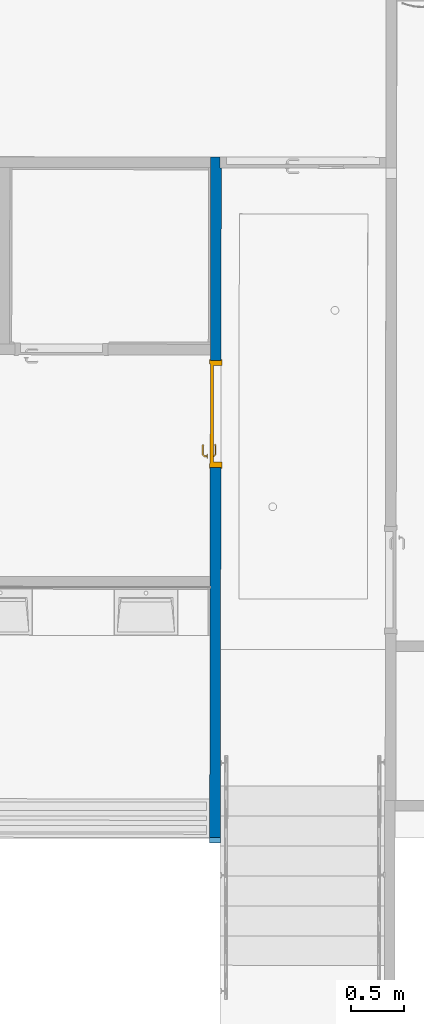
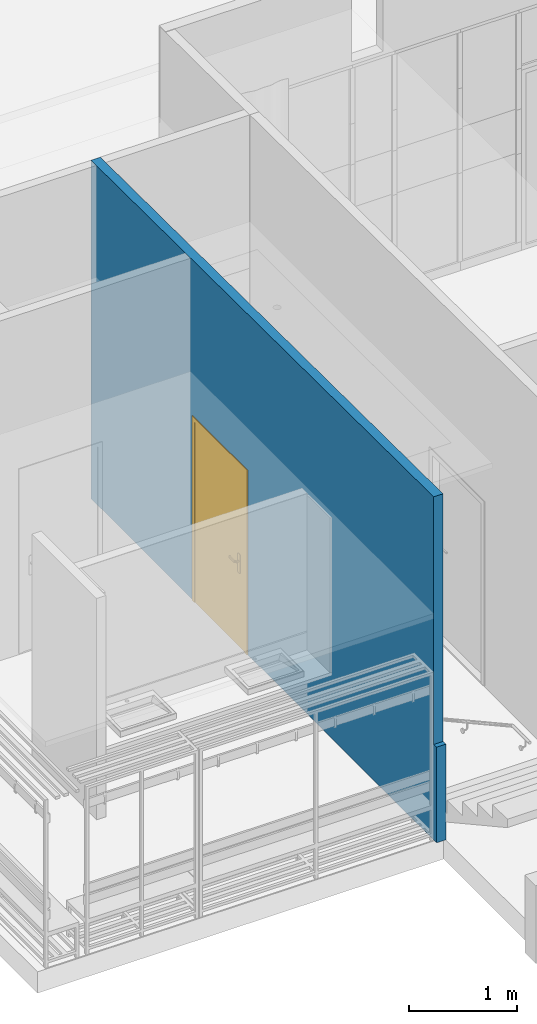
# One storey, part 18 of 43: 1 door, 1 wall, 1 opening.
"""IFC2X3 building model written with IfcOpenShell, lengths in metres."""

from ifc_helpers import new_model, entity, si_unit, converted_unit, derived_unit, direction, frame, frame_2d, origin, place, context, subcontext, project, spatial, rectangle, extrude, faceted_brep, source, transform, mapped, material, material_list, layer, layer_set, type_object, type_shapes, element, fill, save


model = new_model("IFC2X3")

# Units and contexts
model_context = context("Model", 3, precision=1e-05, world=origin(), true_north=direction((6.123233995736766e-17, 1.0)))
body_context = subcontext(model_context, "Body", "Model", "MODEL_VIEW")
ifc_project = project(units=[si_unit("LENGTHUNIT", "METRE"), si_unit("AREAUNIT", "SQUARE_METRE"), converted_unit("PLANEANGLEUNIT", "DEGREE", entity("IfcPlaneAngleMeasure", 0.017453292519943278), si_unit("PLANEANGLEUNIT", "RADIAN"), dimensions=[0, 0, 0, 0, 0, 0, 0]), derived_unit("THERMALTRANSMITTANCEUNIT", [(si_unit("MASSUNIT", "GRAM", prefix="KILO"), 1), (si_unit("THERMODYNAMICTEMPERATUREUNIT", "KELVIN"), -1), (si_unit("TIMEUNIT", "SECOND"), -3)])], contexts=[model_context])

# Site, building, storey
site_placement = place(None, frame((1253.6752467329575, 2072.143113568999, 91.49999999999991), z_axis=(0.0, 0.0, 1.0), x_axis=(0.7237211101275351, 0.6900925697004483, 0.0)))
site = spatial("IfcSite", under=ifc_project, at=site_placement, Name="Surface", CompositionType="ELEMENT")
building_placement = place(site_placement, origin())
building = spatial("IfcBuilding", under=site, at=building_placement, CompositionType="ELEMENT")
storey_placement = place(building_placement, frame((0.0, 0.0, -4.629999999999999)))
storey = spatial("IfcBuildingStorey", under=building, at=storey_placement, Name="rez de rue -1.10m", CompositionType="ELEMENT", Elevation=-4.629999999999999)

# Wall, opening, door
ifc_material_1 = material(Name="OMD_Cloison 100mm CF1h")
ifc_layer = layer(ifc_material_1, 0.1)
ifc_layer_set = layer_set([ifc_layer], Name="Mur de base:Cloison 100mm CF1h")
wall_type = type_object("IfcWallType", Name="Mur de base:Cloison 100mm CF1h", PredefinedType="STANDARD", material=ifc_layer_set)
wall_placement = place(storey_placement, frame((163.069116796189, -1.9004935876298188, 0.0), z_axis=(0.0, 0.0, 1.0), x_axis=(0.6911544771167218, 0.7227070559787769, 0.0)))
wall = element("IfcWall", 1, at=wall_placement, inside=storey, type_object=wall_type, Name="Mur de base:Cloison 100mm CF1h", ObjectType="Mur de base:Cloison 100mm CF1h", context=body_context, shape_type="Brep", body=[
    faceted_brep([(4.509532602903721, -0.049999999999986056, 2.0749999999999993), (4.509532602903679, -0.049999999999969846, 0.0), (6.3090216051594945, -0.04999999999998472, 0.0), (6.409021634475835, -0.04999999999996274, 0.0), (6.409021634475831, -0.049999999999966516, 0.004999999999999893), (6.309021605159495, -0.04999999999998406, 0.004999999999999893), (6.309021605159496, -0.04999999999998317, 2.09), (6.409021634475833, -0.049999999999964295, 2.09), (6.409021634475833, -0.04999999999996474, 3.820748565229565), (6.309021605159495, -0.04999999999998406, 3.821638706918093), (0.05000000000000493, -0.04999999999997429, 3.8773528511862), (0.050000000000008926, -0.04999999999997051, 1.0799999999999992), (0.0, -0.04999999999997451, 1.0799999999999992), (0.0, -0.04999999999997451, 0.0), (3.509532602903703, -0.04999999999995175, 0.0), (3.509532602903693, -0.049999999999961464, 2.0749999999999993), (4.5095326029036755, 0.050000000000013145, 0.0), (4.509532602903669, 0.05000000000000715, 2.0749999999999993), (3.5095326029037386, 0.049999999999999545, 2.0749999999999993), (3.5095326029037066, 0.0500000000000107, 0.0), (0.0, 0.0500000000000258, 0.0), (0.0, 0.0500000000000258, 1.0799999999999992), (0.04999999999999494, 0.05000000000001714, 1.0799999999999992), (0.05000000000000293, 0.05000000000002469, 3.8773528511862), (4.559532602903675, 0.05000000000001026, 3.83721163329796), (4.659532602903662, 0.050000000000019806, 3.8363214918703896), (6.309445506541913, 0.05000000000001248, 3.8216349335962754), (6.408945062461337, 0.05000000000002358, 3.8207492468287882), (6.408945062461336, 0.05000000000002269, 0.0), (6.409011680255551, -0.037000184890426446, 2.09), (6.409011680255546, -0.03700018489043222, 0.004999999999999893), (6.309011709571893, -0.037076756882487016, 0.004999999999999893), (6.309011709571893, -0.037076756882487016, 2.09)], [[[0, 1, 2, 3, 4, 5, 6, 7, 8, 9, 10, 11, 12, 13, 14, 15]], [[16, 17, 18, 19, 20, 21, 22, 23, 24, 25, 26, 27, 28]], [[13, 20, 19, 14]], [[0, 17, 16, 1]], [[17, 0, 15, 18]], [[18, 15, 14, 19]], [[3, 28, 27, 8, 7, 29, 30, 4]], [[8, 27, 26, 25, 24, 23, 10, 9]], [[20, 13, 12, 21]], [[22, 21, 12, 11]], [[11, 10, 23, 22]], [[31, 32, 6, 5]], [[32, 31, 30, 29]], [[32, 29, 7, 6]], [[30, 31, 5, 4]], [[1, 16, 28, 3, 2]]]),
])
opening_placement = place(wall_placement, frame((3.5095326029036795, -0.05000000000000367, 0.0)))
opening = element("IfcOpeningElement", 2, at=opening_placement, cuts=wall, Name="Grz_porte 1V recouvrement 30°:93x204:1", ObjectType="Opening", context=body_context, shape_type="SweptSolid", body=[
    extrude(rectangle(XDim=2.0749999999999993, YDim=0.999999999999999, at=frame_2d((1.0374999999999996, 0.4999999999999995), x_axis=(1.0, 0.0))), frame((0.0, 0.0, 0.0), z_axis=(0.0, 1.0, 0.0), x_axis=(0.0, 0.0, 1.0)), (0.0, 0.0, 1.0), 0.09999999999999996),
])
ifc_material_2 = material(Name="Porte - Poignée")
ifc_material_3 = material(Name="OMD_RAL1032")
ifc_material_list = material_list([ifc_material_2, ifc_material_3])
door_style = type_object("IfcDoorStyle", Name="Grz_porte 1V recouvrement 30°:93x204", ConstructionType="NOTDEFINED", OperationType="SINGLE_SWING_LEFT", ParameterTakesPrecedence=False, Sizeable=False, material=ifc_material_list)
shared_shape = source(origin(), body_context, "Body", "Brep", [
    faceted_brep([(0.897025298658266, 0.009999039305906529, 1.0077804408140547), (0.8929747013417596, 0.009999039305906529, 1.007780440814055), (0.8889999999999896, 0.009999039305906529, 1.0069999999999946), (0.8889999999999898, 0.009999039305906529, 0.9930000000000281), (0.8929747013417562, 0.009999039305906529, 0.992219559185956), (0.8970252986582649, 0.009999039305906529, 0.9922195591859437), (0.9010000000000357, 0.009999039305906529, 0.9929999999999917), (0.9010000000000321, 0.009999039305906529, 1.0069999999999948), (0.8889999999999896, 0.03248424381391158, 1.0069999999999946), (0.8889999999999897, 0.0324842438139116, 0.9930000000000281), (0.8929747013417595, 0.03413061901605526, 1.007780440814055), (0.8970252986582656, 0.035808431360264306, 1.0077804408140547), (0.8808389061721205, 0.05199482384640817, 1.0077804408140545), (0.8791610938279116, 0.04794422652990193, 1.0077804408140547), (0.7957931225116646, 0.047944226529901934, 1.0077804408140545), (0.7941153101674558, 0.051994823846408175, 1.0077804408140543), (0.7864510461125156, 0.04433055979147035, 1.0077804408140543), (0.7893152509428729, 0.0414663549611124, 1.0077804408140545), (0.9010000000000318, 0.03745480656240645, 1.0069999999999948), (0.9010000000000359, 0.037454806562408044, 0.9929999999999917), (0.8970252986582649, 0.03580843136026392, 0.9922195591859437), (0.8929747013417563, 0.03413061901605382, 0.992219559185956), (0.8791610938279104, 0.0479442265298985, 0.9922195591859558), (0.8808389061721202, 0.051994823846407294, 0.9922195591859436), (0.7941153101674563, 0.0519948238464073, 0.9922195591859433), (0.7957931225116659, 0.04794422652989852, 0.9922195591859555), (0.7893152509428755, 0.04146635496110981, 0.9922195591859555), (0.7864510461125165, 0.04433055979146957, 0.9922195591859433), (0.8775147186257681, 0.04396952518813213, 1.0069999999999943), (0.8775147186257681, 0.04396952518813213, 0.993000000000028), (0.8824852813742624, 0.05596952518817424, 1.0069999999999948), (0.8824852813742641, 0.05596952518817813, 0.9929999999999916), (0.837477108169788, 0.04396952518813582, 1.0069999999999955), (0.7974394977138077, 0.04396952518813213, 1.0069999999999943), (0.7974394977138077, 0.043969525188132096, 0.9930000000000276), (0.8374770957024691, 0.04396952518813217, 0.9930000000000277), (0.8374771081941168, 0.05012396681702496, 1.007878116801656), (0.832399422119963, 0.05596952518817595, 1.0069999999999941), (0.7924689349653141, 0.05596952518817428, 1.0069999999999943), (0.8425547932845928, 0.05596952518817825, 0.9929999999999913), (0.7924689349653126, 0.05596952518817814, 0.9929999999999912), (0.8374771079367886, 0.05012396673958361, 0.9921218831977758), (0.7836405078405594, 0.0471410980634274, 1.0069999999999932), (0.7836405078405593, 0.04714109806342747, 0.9929999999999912), (0.7921257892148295, 0.03865581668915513, 0.9930000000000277), (0.7921257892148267, 0.03865581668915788, 1.0069999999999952)], [[[0, 1, 2, 3, 4, 5, 6, 7]], [[8, 9, 3, 2]], [[1, 10, 8, 2]], [[1, 0, 11, 12, 13, 10]], [[14, 15, 16, 17]], [[7, 18, 11, 0]], [[18, 7, 6, 19]], [[6, 5, 20, 19]], [[5, 4, 21, 22, 23, 20]], [[24, 25, 26, 27]], [[4, 3, 9, 21]], [[28, 29, 9, 8]], [[8, 10, 13, 28]], [[18, 30, 12, 11]], [[30, 18, 19, 31]], [[19, 20, 23, 31]], [[21, 9, 29, 22]], [[29, 28, 32, 33, 34, 35]], [[36, 32, 13]], [[37, 38, 15]], [[37, 12, 30]], [[36, 12, 37]], [[14, 32, 36]], [[36, 15, 14]], [[28, 13, 32]], [[32, 14, 33]], [[12, 36, 13]], [[15, 36, 37]], [[30, 31, 39, 40, 38, 37]], [[23, 41, 39]], [[24, 39, 41]], [[39, 31, 23]], [[39, 24, 40]], [[22, 35, 41]], [[41, 23, 22]], [[41, 35, 25]], [[35, 22, 29]], [[34, 25, 35]], [[24, 41, 25]], [[17, 16, 42, 43, 27, 26, 44, 45]], [[45, 44, 34, 33]], [[33, 14, 17, 45]], [[15, 38, 42, 16]], [[43, 42, 38, 40]], [[24, 27, 43, 40]], [[34, 44, 26, 25]]]),
    faceted_brep([(0.89297470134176, -0.030000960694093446, 1.007780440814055), (0.8970252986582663, -0.030000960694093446, 1.0077804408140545), (0.9010000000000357, -0.030000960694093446, 1.0069999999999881), (0.9010000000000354, -0.030000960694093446, 0.9929999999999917), (0.8970252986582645, -0.030000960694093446, 0.9922195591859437), (0.8929747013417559, -0.030000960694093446, 0.992219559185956), (0.8889999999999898, -0.030000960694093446, 0.9930000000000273), (0.8889999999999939, -0.030000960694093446, 1.0069999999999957), (0.8970252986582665, -0.05600553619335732, 1.0077804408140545), (0.9010000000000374, -0.05765191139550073, 1.0069999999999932), (0.8929747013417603, -0.054327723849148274, 1.007780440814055), (0.879298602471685, -0.0680038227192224, 1.0077804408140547), (0.880976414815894, -0.07205442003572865, 1.0077804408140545), (0.7941424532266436, -0.07205442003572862, 1.007780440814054), (0.7958202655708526, -0.06800382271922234, 1.0077804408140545), (0.7893423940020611, -0.061525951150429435, 1.0077804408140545), (0.7864781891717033, -0.06439015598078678, 1.007780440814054), (0.888999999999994, -0.05268134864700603, 1.0069999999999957), (0.8889999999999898, -0.052681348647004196, 0.9930000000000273), (0.8929747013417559, -0.05432772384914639, 0.992219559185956), (0.8970252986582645, -0.05600553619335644, 0.9922195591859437), (0.8809764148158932, -0.07205442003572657, 0.9922195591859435), (0.8792986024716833, -0.06800382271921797, 0.9922195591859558), (0.7958202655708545, -0.06800382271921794, 0.9922195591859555), (0.7941424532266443, -0.07205442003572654, 0.9922195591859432), (0.7864781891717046, -0.06439015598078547, 0.9922195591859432), (0.7893423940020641, -0.06152595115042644, 0.9922195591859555), (0.9010000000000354, -0.05765191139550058, 0.9929999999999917), (0.8826227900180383, -0.07602912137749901, 1.006999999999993), (0.8776522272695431, -0.06402912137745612, 1.0069999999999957), (0.8776522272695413, -0.06402912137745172, 0.9930000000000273), (0.882622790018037, -0.0760291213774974, 0.9929999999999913), (0.8375594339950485, -0.07018376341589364, 1.0078781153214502), (0.8426923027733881, -0.07602912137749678, 1.0069999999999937), (0.7924960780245, -0.07602912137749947, 1.0069999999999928), (0.8375594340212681, -0.06402912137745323, 1.0069999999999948), (0.797466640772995, -0.06402912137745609, 1.0069999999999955), (0.8375594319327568, -0.06402912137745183, 0.9930000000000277), (0.7974666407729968, -0.0640291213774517, 0.993000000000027), (0.837559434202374, -0.07018376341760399, 0.9921218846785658), (0.8324265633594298, -0.07602912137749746, 0.9929999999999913), (0.7924960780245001, -0.07602912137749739, 0.9929999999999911), (0.7921529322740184, -0.058715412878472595, 0.9930000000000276), (0.7836676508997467, -0.06720069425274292, 0.9929999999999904), (0.783667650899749, -0.06720069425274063, 1.0069999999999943), (0.7921529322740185, -0.058715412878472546, 1.0069999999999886)], [[[0, 1, 2, 3, 4, 5, 6, 7]], [[2, 1, 8, 9]], [[1, 0, 10, 11, 12, 8]], [[13, 14, 15, 16]], [[0, 7, 17, 10]], [[17, 7, 6, 18]], [[5, 19, 18, 6]], [[5, 4, 20, 21, 22, 19]], [[23, 24, 25, 26]], [[3, 27, 20, 4]], [[9, 27, 3, 2]], [[9, 8, 12, 28]], [[10, 17, 29, 11]], [[29, 17, 18, 30]], [[18, 19, 22, 30]], [[20, 27, 31, 21]], [[28, 31, 27, 9]], [[12, 32, 33]], [[13, 33, 32]], [[33, 28, 12]], [[33, 13, 34]], [[11, 35, 32]], [[32, 12, 11]], [[32, 35, 14]], [[35, 11, 29]], [[36, 14, 35]], [[13, 32, 14]], [[30, 37, 38, 36, 35, 29]], [[39, 37, 22]], [[40, 41, 24]], [[40, 21, 31]], [[39, 21, 40]], [[23, 37, 39]], [[39, 24, 23]], [[30, 22, 37]], [[37, 23, 38]], [[21, 39, 22]], [[24, 39, 40]], [[31, 28, 33, 34, 41, 40]], [[42, 26, 25, 43, 44, 16, 15, 45]], [[13, 16, 44, 34]], [[36, 45, 15, 14]], [[45, 36, 38, 42]], [[38, 23, 26, 42]], [[24, 41, 43, 25]], [[44, 43, 41, 34]]]),
    faceted_brep([(0.8950000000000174, 0.004999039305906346, 0.8646410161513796), (0.9053527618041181, 0.0049990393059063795, 0.8660039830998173), (0.9150000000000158, 0.004999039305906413, 0.870000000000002), (0.9150000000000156, 0.004999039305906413, 1.0800000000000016), (0.9053527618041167, 0.0049990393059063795, 1.0839960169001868), (0.8950000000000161, 0.004999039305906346, 1.085358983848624), (0.8846472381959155, 0.004999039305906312, 1.0839960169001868), (0.8750000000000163, 0.004999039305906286, 1.0800000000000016), (0.8750000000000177, 0.004999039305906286, 0.8700000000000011), (0.8846472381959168, 0.004999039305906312, 0.8660039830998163), (0.8950000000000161, 0.00999903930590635, 1.085358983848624), (0.9053527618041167, 0.009999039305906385, 1.0839960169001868), (0.9150000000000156, 0.009999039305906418, 1.0800000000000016), (0.9150000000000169, 0.009999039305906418, 0.8700000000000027), (0.9053527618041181, 0.009999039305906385, 0.8660039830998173), (0.8950000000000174, 0.00999903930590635, 0.8646410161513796), (0.8846472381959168, 0.009999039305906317, 0.8660039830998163), (0.8750000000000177, 0.009999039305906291, 0.8700000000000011), (0.8750000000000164, 0.009999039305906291, 1.0800000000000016), (0.8846472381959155, 0.009999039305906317, 1.0839960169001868)], [[[0, 1, 2, 3, 4, 5, 6, 7, 8, 9]], [[10, 11, 12, 13, 14, 15, 16, 17, 18, 19]], [[6, 19, 18, 7]], [[5, 10, 19, 6]], [[4, 11, 10, 5]], [[4, 3, 12, 11]], [[12, 3, 2, 13]], [[1, 14, 13, 2]], [[0, 15, 14, 1]], [[9, 16, 15, 0]], [[9, 8, 17, 16]], [[17, 8, 7, 18]]]),
    faceted_brep([(0.8950000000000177, -0.030000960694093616, 0.8646410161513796), (0.9053527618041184, -0.03000096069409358, 0.8660039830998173), (0.9150000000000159, -0.030000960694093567, 0.8700000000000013), (0.9150000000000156, -0.030000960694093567, 1.0800000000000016), (0.9053527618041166, -0.03000096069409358, 1.0839960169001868), (0.895000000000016, -0.030000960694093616, 1.085358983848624), (0.8846472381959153, -0.03000096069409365, 1.0839960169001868), (0.8750000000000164, -0.030000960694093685, 1.0800000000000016), (0.8750000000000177, -0.030000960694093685, 0.8700000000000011), (0.884647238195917, -0.03000096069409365, 0.8660039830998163), (0.9150000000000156, -0.02500096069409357, 1.0800000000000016), (0.9150000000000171, -0.02500096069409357, 0.8700000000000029), (0.9053527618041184, -0.0250009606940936, 0.8660039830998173), (0.8950000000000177, -0.025000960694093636, 0.8646410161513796), (0.884647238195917, -0.02500096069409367, 0.8660039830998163), (0.8750000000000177, -0.025000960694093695, 0.8700000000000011), (0.8750000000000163, -0.025000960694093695, 1.0800000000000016), (0.8846472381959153, -0.02500096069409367, 1.0839960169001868), (0.895000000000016, -0.025000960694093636, 1.085358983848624), (0.9053527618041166, -0.0250009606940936, 1.0839960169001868)], [[[0, 1, 2, 3, 4, 5, 6, 7, 8, 9]], [[10, 11, 12, 13, 14, 15, 16, 17, 18, 19]], [[1, 12, 11, 2]], [[0, 13, 12, 1]], [[9, 14, 13, 0]], [[9, 8, 15, 14]], [[15, 8, 7, 16]], [[6, 17, 16, 7]], [[5, 18, 17, 6]], [[4, 19, 18, 5]], [[4, 3, 10, 19]], [[10, 3, 2, 11]]]),
    faceted_brep([(1.0, -9.606940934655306e-07, 0.0), (1.0100000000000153, -9.606940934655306e-07, 0.0), (1.0100000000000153, -0.00800096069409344, 0.0), (0.9650000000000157, -0.00800096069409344, 0.0), (0.9650000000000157, 0.029999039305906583, 0.0), (0.9500000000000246, 0.029999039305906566, 0.0), (0.9500000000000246, 0.10799903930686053, 0.0), (1.0100000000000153, 0.10799903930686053, 0.0), (1.0100000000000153, 0.09999903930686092, 0.0), (1.0, 0.09999903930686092, 0.0), (1.0, 0.09999903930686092, 2.0749999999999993), (1.0, -9.606940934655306e-07, 2.0749999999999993), (1.0100000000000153, 0.09999903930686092, 2.084999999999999), (-0.009999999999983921, 0.09999903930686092, 2.084999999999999), (-0.009999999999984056, 0.09999903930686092, 0.0), (0.0, 0.09999903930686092, 0.0), (0.0, 0.09999903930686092, 2.0749999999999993), (1.0100000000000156, 0.10799903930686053, 2.084999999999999), (0.9500000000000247, 0.10799903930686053, 2.0250000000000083), (0.050000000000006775, 0.10799903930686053, 2.0250000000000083), (0.05000000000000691, 0.10799903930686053, 0.0), (-0.009999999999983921, 0.10799903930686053, 0.0), (-0.009999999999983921, 0.10799903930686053, 2.084999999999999), (0.9500000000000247, 0.029999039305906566, 2.0250000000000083), (0.9650000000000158, 0.029999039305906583, 2.0399999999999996), (0.035000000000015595, 0.029999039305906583, 2.0399999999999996), (0.035000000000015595, 0.029999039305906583, 0.0), (0.050000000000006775, 0.029999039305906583, 0.0), (0.050000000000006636, 0.029999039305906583, 2.0250000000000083), (0.9650000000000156, -0.00800096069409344, 2.0399999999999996), (1.0100000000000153, -0.00800096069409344, 2.084999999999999), (-0.009999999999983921, -0.00800096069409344, 2.084999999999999), (-0.009999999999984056, -0.00800096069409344, 0.0), (0.035000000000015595, -0.00800096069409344, 0.0), (0.035000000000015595, -0.00800096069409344, 2.0399999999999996), (1.0100000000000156, -9.606940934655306e-07, 2.084999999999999), (0.0, -9.606940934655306e-07, 2.0749999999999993), (0.0, -9.606940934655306e-07, 0.0), (-0.009999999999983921, -9.606940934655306e-07, 0.0), (-0.009999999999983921, -9.606940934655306e-07, 2.084999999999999)], [[[0, 1, 2, 3, 4, 5, 6, 7, 8, 9]], [[9, 10, 11, 0]], [[8, 12, 13, 14, 15, 16, 10, 9]], [[7, 17, 12, 8]], [[6, 18, 19, 20, 21, 22, 17, 7]], [[5, 23, 18, 6]], [[4, 24, 25, 26, 27, 28, 23, 5]], [[3, 29, 24, 4]], [[2, 30, 31, 32, 33, 34, 29, 3]], [[1, 35, 30, 2]], [[0, 11, 36, 37, 38, 39, 35, 1]], [[16, 15, 37, 36]], [[37, 15, 14, 21, 20, 27, 26, 33, 32, 38]], [[22, 21, 14, 13]], [[28, 27, 20, 19]], [[34, 33, 26, 25]], [[39, 38, 32, 31]], [[10, 16, 36, 11]], [[17, 22, 13, 12]], [[23, 28, 19, 18]], [[29, 34, 25, 24]], [[35, 39, 31, 30]]]),
    faceted_brep([(0.9650000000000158, -9.606940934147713e-07, 2.0399999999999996), (0.035000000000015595, -9.606940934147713e-07, 2.0399999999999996), (0.03500000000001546, -9.606940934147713e-07, 0.0), (0.9650000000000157, -9.606940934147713e-07, 0.0), (0.9650000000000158, 0.029999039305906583, 2.0399999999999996), (0.9650000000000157, 0.029999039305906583, 0.0), (0.03500000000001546, 0.029999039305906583, 0.0), (0.035000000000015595, 0.029999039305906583, 2.0399999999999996)], [[[0, 1, 2, 3]], [[4, 5, 6, 7]], [[3, 5, 4, 0]], [[2, 6, 5, 3]], [[1, 7, 6, 2]], [[0, 4, 7, 1]]]),
])
type_shapes(door_style, [shared_shape])
door_placement = place(opening_placement, frame((1.0, 0.09999903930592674, 0.0), z_axis=(0.0, 0.0, 1.0), x_axis=(-1.0, 0.0, 0.0)))
door = element("IfcDoor", 3, at=door_placement, inside=storey, type_object=door_style, material=ifc_material_list, Name="Grz_porte 1V recouvrement 30°:93x204", ObjectType="Grz_porte 1V recouvrement 30°:93x204", OverallHeight=2.0749999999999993, OverallWidth=0.9999999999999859, context=body_context, shape_type="MappedRepresentation", body=[
    mapped(shared_shape, transform((0.0, 0.0, 0.0), scale=1.0)),
])
fill(opening, door)

save(model, "model.ifc")
